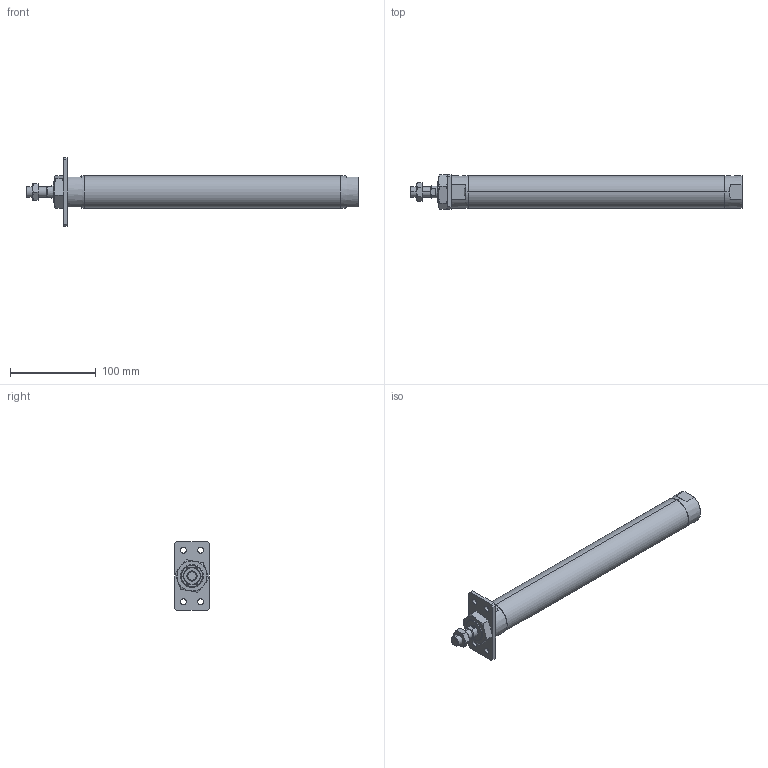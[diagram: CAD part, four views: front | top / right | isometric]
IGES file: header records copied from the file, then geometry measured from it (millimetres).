
Start section: SolidWorks IGES file using analytic representation for surfaces
Global section: file name: C:\Users\Toshiba\Desktop\JGND2-32-250-A.IGS; native system: SolidWorks 2014; preprocessor: SolidWorks 2014; author: Toshiba; date: 160804.105801; units: millimetre
Bounding box: 387 x 40 x 80 mm (x, y, z)
Surface area: 57006.2 mm2 (no closed solid volume)
Topology: 0 solids, 0 shells, 109 faces, 1980 edges, 1976 vertices
Faces by surface type: bspline 66, revolution 43
